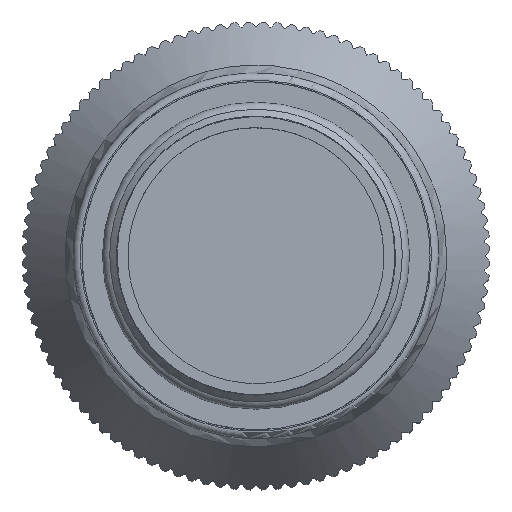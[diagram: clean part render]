
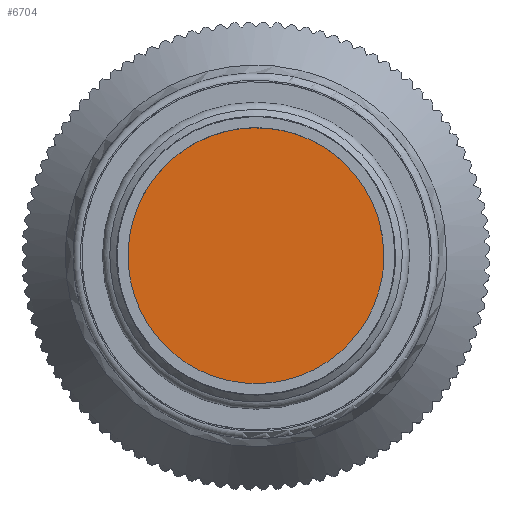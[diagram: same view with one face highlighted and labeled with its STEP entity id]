
A CAD part, top view. The second image highlights one B-rep face of the part: STEP entity #6704.
In plain terms, the highlighted planar face has unit normal (0, 0, 1).
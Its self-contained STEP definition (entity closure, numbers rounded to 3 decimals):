
#438=FACE_OUTER_BOUND('',#1319,.T.);
#651=PLANE('',#8075);
#1319=EDGE_LOOP('',(#3774));
#3774=ORIENTED_EDGE('',*,*,#5008,.T.);
#5008=EDGE_CURVE('E55',#7593,#7593,#7601,.T.);
#6704=ADVANCED_FACE('F11',(#438),#651,.T.);
#7593=VERTEX_POINT('',#17082);
#7601=CIRCLE('',#8074,14.95);
#8074=AXIS2_PLACEMENT_3D('',#17081,#8940,#8941);
#8075=AXIS2_PLACEMENT_3D('',#17083,#8942,#8943);
#8940=DIRECTION('',(0.,0.,1.));
#8941=DIRECTION('',(1.,0.,0.));
#8942=DIRECTION('',(0.,0.,1.));
#8943=DIRECTION('',(1.,0.,0.));
#17081=CARTESIAN_POINT('',(0.,0.,-12.48));
#17082=CARTESIAN_POINT('',(0.,-14.95,-12.48));
#17083=CARTESIAN_POINT('',(-16.445,-16.445,-12.48));
